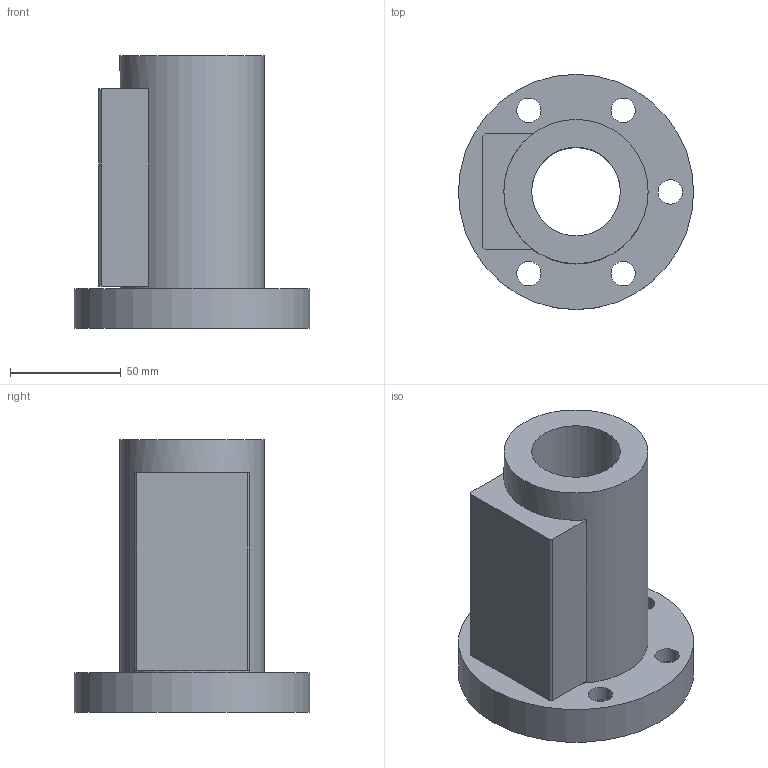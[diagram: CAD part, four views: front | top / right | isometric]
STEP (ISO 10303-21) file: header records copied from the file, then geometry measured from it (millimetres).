
FILE_DESCRIPTION(/* description */ (''),/* implementation_level */ '2;1');
FILE_NAME(/* name */ '40-25B1',/* time_stamp */ '2006-07-31T11:52:50+08:00',/* author */ (''),/* organization */ (''),/* preprocessor_version */ 'ST-DEVELOPER v9',/* originating_system */ 'UGS - NX 4.0',/* authorisation */ '');
FILE_SCHEMA (('CONFIG_CONTROL_DESIGN'));
Length unit declared in the file: millimetre
Products named in the file (1): 40-25B1
Bounding box: 106 x 106 x 123 mm (x, y, z)
Volume: 398138.4 mm3; surface area: 65868.7 mm2
Topology: 1 solids, 1 shells, 28 faces, 61 edges, 42 vertices
Faces by surface type: plane 15, cylinder 13
Full cylindrical faces by diameter (mm): 11 x5, 17.5 x5, 40 x1, 65 x1, 106 x1
Entity records: 794 total; most frequent: DIRECTION 130, CARTESIAN_POINT 111, ORIENTED_EDGE 88, EDGE_LOOP 60, AXIS2_PLACEMENT_3D 57, FACE_BOUND 45, EDGE_CURVE 44, VERTEX_POINT 38
